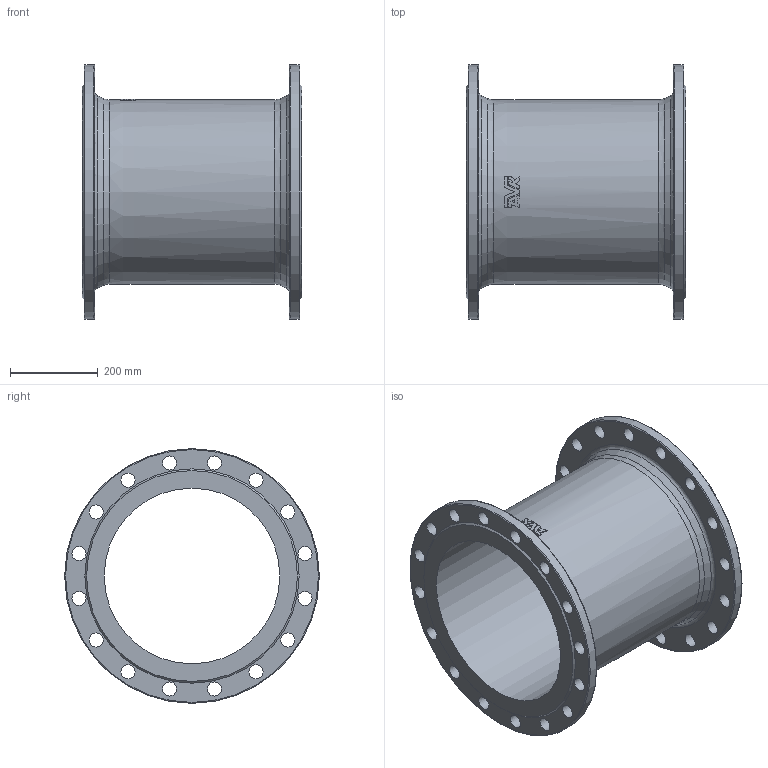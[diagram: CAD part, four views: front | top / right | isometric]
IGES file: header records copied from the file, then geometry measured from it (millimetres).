
Start section: SolidWorks IGES file using analytic representation for surfaces
Global section: file name: \\avksan2\techshare\PBM outline export from Enovia\O_712_4810_DN400_1X_REV01.igs; native system: SolidWorks 2019; preprocessor: SolidWorks 2019; author: pbm; date: 211202.085710; units: millimetre
Bounding box: 500 x 580 x 580 mm (x, y, z)
Surface area: 1826592.8 mm2 (no closed solid volume)
Topology: 0 solids, 0 shells, 95 faces, 479 edges, 430 vertices
Faces by surface type: revolution 52, bspline 43
